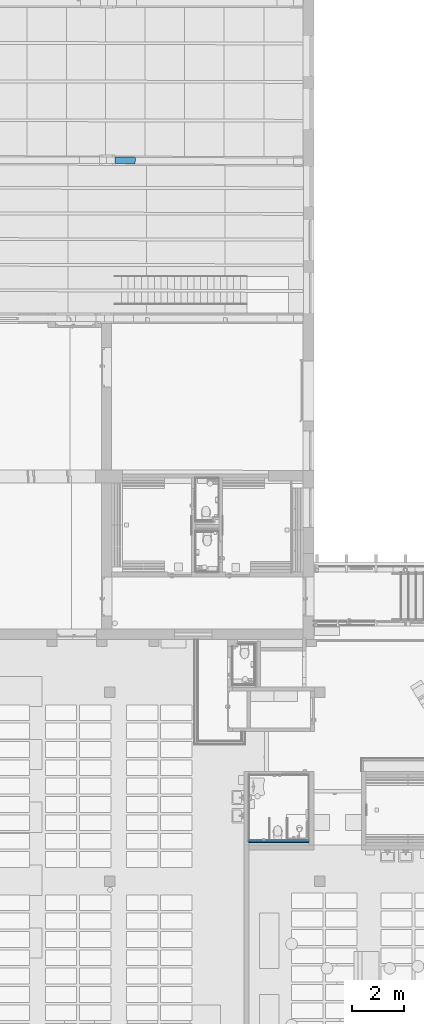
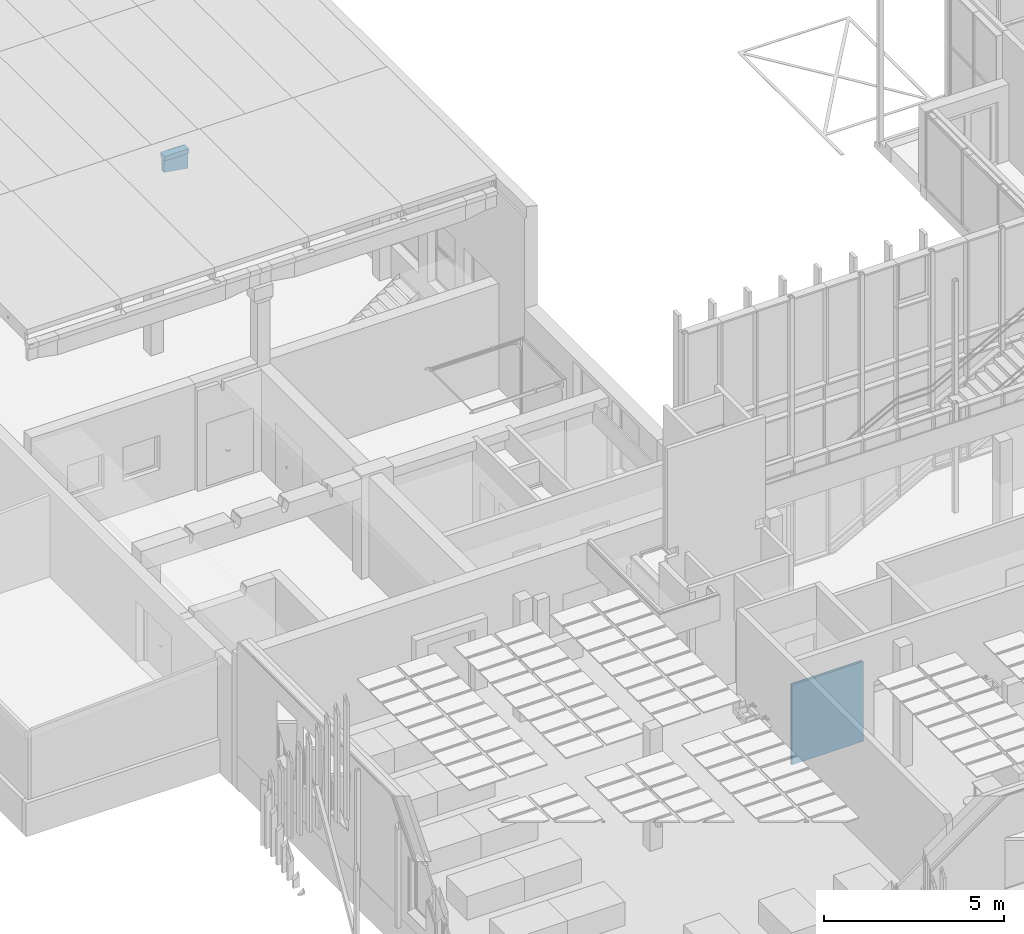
# One storey, part 184 of 301: 4 building element parts, 2 elements without a shape of their own.
"""IFC2X3 building model written with IfcOpenShell, lengths in millimetres."""

from ifc_helpers import new_model, entity, si_unit, converted_unit, derived_unit, money_unit, direction, frame, origin_with_axes, place, context, subcontext, project, spatial, faceted_brep, material, type_object, element, aggregate, save


model = new_model("IFC2X3")

# Units and contexts
model_context = context("Model", 3, precision=0.01, world=origin_with_axes(), true_north=direction((0.0, 1.0)))
body_context = subcontext(model_context, "Body", "Model", "MODEL_VIEW")
ifc_project = project(units=[si_unit("LENGTHUNIT", "METRE", prefix="MILLI"), si_unit("AREAUNIT", "SQUARE_METRE"), si_unit("VOLUMEUNIT", "CUBIC_METRE"), converted_unit("PLANEANGLEUNIT", "DEGREE", entity("IfcPlaneAngleMeasure", 0.0174532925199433), si_unit("PLANEANGLEUNIT", "RADIAN"), dimensions=[0, 0, 0, 0, 0, 0, 0]), money_unit("EUR"), converted_unit("TIMEUNIT", "Year", entity("IfcTimeMeasure", 31557600.0), si_unit("TIMEUNIT", "SECOND"), dimensions=[0, 0, 1, 0, 0, 0, 0]), si_unit("MASSUNIT", "GRAM", prefix="KILO"), si_unit("THERMODYNAMICTEMPERATUREUNIT", "DEGREE_CELSIUS"), si_unit("LUMINOUSINTENSITYUNIT", "LUMEN"), si_unit("ENERGYUNIT", "JOULE", prefix="MEGA"), derived_unit("THERMALCONDUCTANCEUNIT", [(si_unit("POWERUNIT", "WATT"), 1), (si_unit("LENGTHUNIT", "METRE"), -1), (si_unit("THERMODYNAMICTEMPERATUREUNIT", "KELVIN"), -1)]), derived_unit("SPECIFICHEATCAPACITYUNIT", [(si_unit("ENERGYUNIT", "JOULE"), 1), (si_unit("MASSUNIT", "GRAM", prefix="KILO"), -1), (si_unit("THERMODYNAMICTEMPERATUREUNIT", "KELVIN"), -1)]), derived_unit("MASSDENSITYUNIT", [(si_unit("MASSUNIT", "GRAM", prefix="KILO"), 1), (si_unit("VOLUMEUNIT", "CUBIC_METRE"), -1)])], contexts=[model_context])

# Site, building, storey
site_placement = place(None, frame((0.0, 0.0, 8650.0), z_axis=(0.0, 0.0, 1.0), x_axis=(1.0, 0.0, 0.0)))
site = spatial("IfcSite", under=ifc_project, at=site_placement, Name="43301:001:0844", CompositionType="ELEMENT")
building_placement = place(site_placement, origin_with_axes())
building = spatial("IfcBuilding", under=site, at=building_placement, Name="Kuressaare Ametikooli tuulikute mehaanikute õppekorpus", CompositionType="ELEMENT")
storey_placement = place(building_placement, origin_with_axes())
storey = spatial("IfcBuildingStorey", under=building, at=storey_placement, Name="1.korrus", CompositionType="ELEMENT", Elevation=0.0)

# Wall, building element parts
wall_type = type_object("IfcWallType", Name="SS-2.4 92", PredefinedType="NOTDEFINED")
wall_placement = place(storey_placement, frame((103645.5116032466, 18124.79355694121, 0.0), z_axis=(0.0, 0.0, 1.0), x_axis=(-0.999999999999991, 1.339727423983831e-07, 0.0)))
wall = element("IfcWall", 1, at=wall_placement, inside=storey, type_object=wall_type, Name="Sisesein")
ifc_material_1 = material(Name="Plywood")
building_element_part_1_placement = place(wall_placement, origin_with_axes())
building_element_part_1 = element("IfcBuildingElementPart", 2, at=building_element_part_1_placement, material=ifc_material_1, Name="Plywood", context=body_context, shape_type="Brep", body=[
    faceted_brep([(2477.559316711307, 12.99999999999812, 0.0), (189.9999999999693, 12.99999999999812, 0.0), (189.9999999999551, 25.9999999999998, 0.0), (2477.559314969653, 25.99999999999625, 0.0), (2477.559316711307, 12.99999999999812, 2700.0), (189.9999999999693, 13.00000000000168, 2700.0), (189.9999999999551, 25.9999999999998, 2700.0), (2477.559314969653, 25.99999999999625, 2700.0)], [[[0, 1, 2, 3]], [[4, 5, 1, 0]], [[2, 1, 5, 6]], [[3, 2, 6, 7]], [[3, 7, 4, 0]], [[7, 6, 5, 4]]]),
])
ifc_material_2 = material(Name="Air Space - Frame")
building_element_part_2_placement = place(wall_placement, origin_with_axes())
building_element_part_2 = element("IfcBuildingElementPart", 3, at=building_element_part_2_placement, material=ifc_material_2, Name="Air Space - Frame", context=body_context, shape_type="Brep", body=[
    faceted_brep([(2477.559314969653, 25.99999999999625, 0.0), (189.9999999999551, 25.9999999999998, 0.0), (189.9999999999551, 91.99999999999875, 0.0), (2477.55930612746, 91.9999999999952, 0.0), (2477.559314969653, 25.99999999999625, 2700.0), (189.9999999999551, 25.9999999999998, 2700.0), (189.9999999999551, 91.99999999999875, 2700.0), (2477.55930612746, 91.9999999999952, 2700.0)], [[[0, 1, 2, 3]], [[4, 5, 1, 0]], [[2, 1, 5, 6]], [[3, 2, 6, 7]], [[3, 7, 4, 0]], [[7, 6, 5, 4]]]),
])
ifc_material_3 = material(Name="Plaster - Gypsum")
building_element_part_3_placement = place(wall_placement, origin_with_axes())
building_element_part_3 = element("IfcBuildingElementPart", 4, at=building_element_part_3_placement, material=ifc_material_3, Name="Plaster - Gypsum", context=body_context, shape_type="Brep", body=[
    faceted_brep([(2477.559316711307, 12.99999999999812, 0.0), (2477.559318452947, 0.0, 0.0), (189.9999999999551, 0.0, 0.0), (189.9999999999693, 12.99999999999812, 0.0), (2477.559316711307, 12.99999999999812, 2700.0), (2477.559318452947, 0.0, 2700.0), (189.9999999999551, 0.0, 2700.0), (189.9999999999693, 13.00000000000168, 2700.0)], [[[0, 1, 2, 3]], [[1, 0, 4, 5]], [[1, 5, 6, 2]], [[7, 3, 2, 6]], [[4, 0, 3, 7]], [[5, 4, 7, 6]]]),
])
aggregate(wall, [building_element_part_1, building_element_part_2, building_element_part_3])

# Beam, building element part
beam_type = type_object("IfcBeamType", Name="Various Structures - 5 Segments - 250 x 700 x 7499 (338+766+5404+631+361)", PredefinedType="NOTDEFINED")
beam_placement = place(storey_placement, frame((95728.83666082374, 44073.08587643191, 6660.0), z_axis=(0.0, 0.0, 1.0), x_axis=(-0.005544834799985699, -0.9999846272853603, 0.0)))
beam = element("IfcBeam", 5, at=beam_placement, inside=storey, type_object=beam_type)
ifc_material_4 = material(Name="Raudbetoon")
building_element_part_4_placement = place(beam_placement, origin_with_axes())
building_element_part_4 = element("IfcBuildingElementPart", 6, at=building_element_part_4_placement, material=ifc_material_4, Name="Raudbetoon", context=body_context, shape_type="Brep", body=[
    faceted_brep([(-125.00515747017, 529.2394483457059, 0.0), (-125.0052826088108, 337.7568168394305, 0.0), (-98.25972635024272, 337.7568168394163, 0.0), (-99.91032148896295, 1103.687342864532, 0.0), (-125.0047820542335, 1103.687342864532, 0.0), (-125.0049071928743, 912.2047113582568, 0.0), (-125.0051369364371, 337.7568168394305, -75.00000000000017), (120.8993267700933, 337.7568168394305, 0.0), (120.8993141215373, 337.7568168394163, -4.176709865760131), (-98.25971370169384, 337.7568168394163, -4.176709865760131), (-125.0049912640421, 337.7568168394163, -150.0000000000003), (-65.00000000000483, 337.7568168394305, -164.4011979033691), (-65.00000000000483, 337.7568168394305, -579.8231697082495), (64.99999999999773, 337.7568168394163, -579.8231697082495), (64.99999999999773, 337.7568168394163, -164.4011979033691), (125.004991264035, 337.7568168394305, -150.0000000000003), (125.00513693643, 337.7568168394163, -75.00000000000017), (125.0052826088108, 337.7568168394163, 0.0), (-99.91030884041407, 1103.687342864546, -4.176709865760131), (119.2487189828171, 1103.687342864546, -4.176709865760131), (119.2487316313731, 1103.687342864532, 0.0), (125.0047820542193, 1103.687342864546, 0.0), (125.004616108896, 1103.687342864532, -75.00000000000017), (125.0044501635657, 1103.687342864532, -150.0000000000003), (65.00000000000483, 1103.687342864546, -164.4010680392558), (65.00000000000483, 1103.687342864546, -699.9999999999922), (-65.00000000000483, 1103.687342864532, -699.9999999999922), (-65.00000000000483, 1103.687342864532, -164.4010680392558), (-125.0044501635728, 1103.687342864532, -150.0000000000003), (-125.0046161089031, 1103.687342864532, -75.00000000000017), (-125.0048765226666, 720.7220798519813, -75.00000000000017), (-125.0048559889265, 529.2394483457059, -150.0000000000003), (-125.0045854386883, 912.2047113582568, -150.0000000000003), (125.0045854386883, 912.2047113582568, -150.0000000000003), (125.0048559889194, 529.2394483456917, -150.0000000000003), (125.00515747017, 529.2394483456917, 0.0), (125.0049071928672, 912.2047113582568, 0.0), (125.0048765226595, 720.7220798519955, -75.00000000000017)], [[[0, 1, 2, 3, 4, 5]], [[1, 0, 6]], [[7, 8, 9, 2, 1, 6, 10, 11, 12, 13, 14, 15, 16, 17]], [[2, 9, 18, 3]], [[3, 18, 19, 20, 21, 22, 23, 24, 25, 26, 27, 28, 29, 4]], [[5, 4, 29]], [[0, 5, 30]], [[0, 30, 31, 6]], [[19, 8, 7, 20]], [[9, 8, 19, 18]], [[10, 6, 31]], [[32, 28, 27, 11, 10, 31]], [[11, 27, 26, 12]], [[13, 12, 26, 25]], [[13, 25, 24, 14]], [[14, 24, 23, 33, 34, 15]], [[15, 34, 16]], [[17, 16, 35]], [[36, 21, 20, 7, 17, 35]], [[36, 22, 21]], [[33, 23, 22]], [[32, 29, 28]], [[5, 29, 32, 30]], [[31, 30, 32]], [[34, 33, 37]], [[34, 37, 35, 16]], [[35, 37, 36]], [[33, 22, 36, 37]]]),
])
aggregate(beam, [building_element_part_4])

save(model, "model.ifc")
